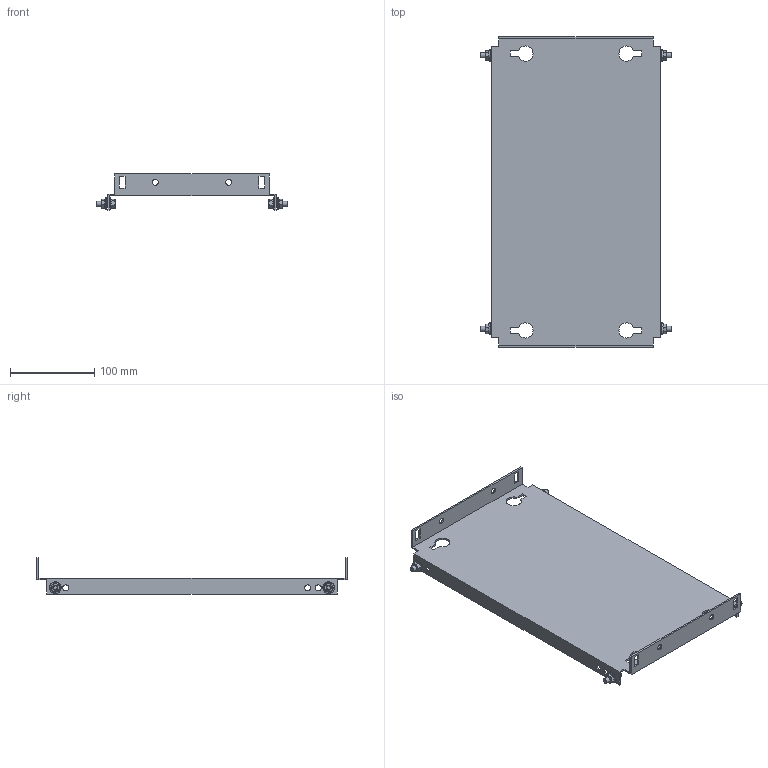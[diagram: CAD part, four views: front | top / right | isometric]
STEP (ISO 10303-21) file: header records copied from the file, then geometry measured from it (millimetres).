
FILE_DESCRIPTION(('Open CASCADE Model'),'2;1');
FILE_NAME('Open CASCADE Shape Model','2025-02-20T13:24:45',('Author'),( 'Open CASCADE'),'Open CASCADE STEP processor 7.8','Open CASCADE 7.8' ,'Unknown');
FILE_SCHEMA(('AUTOMOTIVE_DESIGN { 1 0 10303 214 1 1 1 1 }'));
Length unit declared in the file: millimetre
Products named in the file (4): Compound1; Solid1; Solid2; Solid3
Assembly tree (9 placements, depth 2):
  Compound1
    Solid1
    Solid2  x4
    Solid3  x4
Bounding box: 228 x 369 x 43 mm (x, y, z)
Volume: 189949.8 mm3; surface area: 193139.8 mm2
Topology: 9 solids, 9 shells, 308 faces, 753 edges, 467 vertices
Faces by surface type: plane 150, cone 68, bspline 48, cylinder 30, torus 12
Full cylindrical faces by diameter (mm): 5 x4, 6 x8, 7 x14
Entity records: 4930 total; most frequent: CARTESIAN_POINT 1377, ORIENTED_EDGE 756, DIRECTION 642, EDGE_CURVE 378, VERTEX_POINT 245, LINE 216, VECTOR 216, AXIS2_PLACEMENT_3D 213
